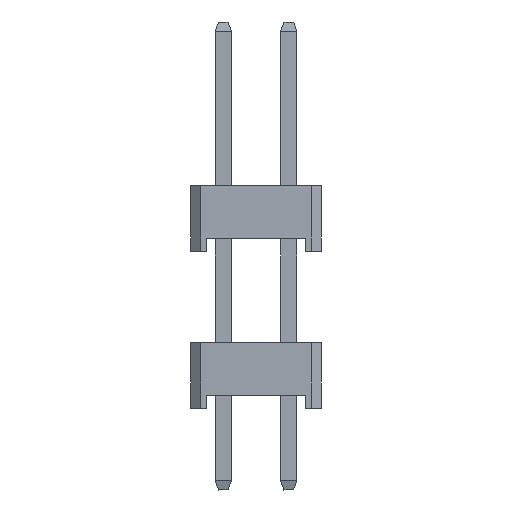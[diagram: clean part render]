
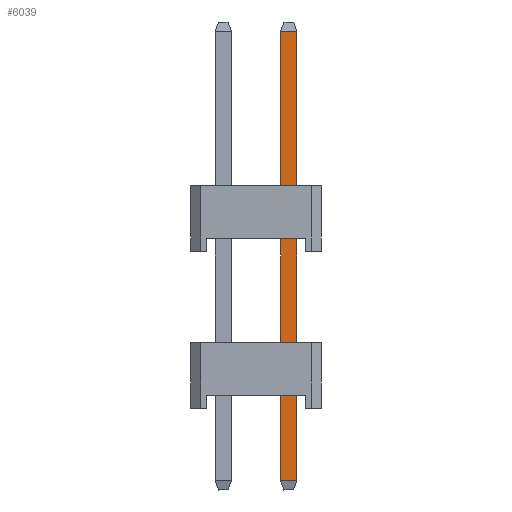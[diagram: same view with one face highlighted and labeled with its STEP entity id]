
A CAD part, left-side view. The second image highlights one B-rep face of the part: STEP entity #6039.
In plain terms, the highlighted planar face has unit normal (-1, 0, 0).
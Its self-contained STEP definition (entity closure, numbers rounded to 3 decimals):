
#1239 = CARTESIAN_POINT ( 'NONE',  ( -11.696, 1.914, 0.5 ) ) ;
#1490 = LINE ( 'NONE', #1507, #15862 ) ;
#1503 = LINE ( 'NONE', #1505, #15863 ) ;
#1505 = CARTESIAN_POINT ( 'NONE',  ( -11.696, 1.914, 0. ) ) ;
#1506 = DIRECTION ( 'NONE',  ( 0., 0., -1. ) ) ;
#1507 = CARTESIAN_POINT ( 'NONE',  ( -11.696, 15.614, 0. ) ) ;
#1509 = DIRECTION ( 'NONE',  ( 0., 0., 1. ) ) ;
#1530 = LINE ( 'NONE', #1531, #15872 ) ;
#1531 = CARTESIAN_POINT ( 'NONE',  ( -11.696, -2.886, 0.5 ) ) ;
#1532 = DIRECTION ( 'NONE',  ( 0., -1., 0. ) ) ;
#1536 = LINE ( 'NONE', #1538, #15874 ) ;
#1538 = CARTESIAN_POINT ( 'NONE',  ( -11.696, -2.886, 0. ) ) ;
#1539 = DIRECTION ( 'NONE',  ( 0., 1., 0. ) ) ;
#1973 = ORIENTED_EDGE ( 'NONE', *, *, #16543, .F. ) ;
#2029 = ORIENTED_EDGE ( 'NONE', *, *, #16545, .F. ) ;
#2047 = ORIENTED_EDGE ( 'NONE', *, *, #16560, .F. ) ;
#2059 = ORIENTED_EDGE ( 'NONE', *, *, #16562, .F. ) ;
#2361 = EDGE_LOOP ( 'NONE', ( #1973, #2047, #2029, #2059 ) ) ;
#4445 = VERTEX_POINT ( 'NONE', #13316 ) ;
#4467 = VERTEX_POINT ( 'NONE', #13337 ) ;
#5007 = VERTEX_POINT ( 'NONE', #13877 ) ;
#6039 = ADVANCED_FACE ( 'NONE', ( #16292 ), #16286, .F. ) ;
#10689 = VERTEX_POINT ( 'NONE', #1239 ) ;
#13316 = CARTESIAN_POINT ( 'NONE',  ( -11.696, 15.614, 0.5 ) ) ;
#13337 = CARTESIAN_POINT ( 'NONE',  ( -11.696, 1.914, 0. ) ) ;
#13877 = CARTESIAN_POINT ( 'NONE',  ( -11.696, 15.614, 0. ) ) ;
#15398 = AXIS2_PLACEMENT_3D ( 'NONE', #16288, #16294, #16295 ) ;
#15862 = VECTOR ( 'NONE', #1509, 1000. ) ;
#15863 = VECTOR ( 'NONE', #1506, 1000. ) ;
#15872 = VECTOR ( 'NONE', #1532, 1000. ) ;
#15874 = VECTOR ( 'NONE', #1539, 1000. ) ;
#16286 = PLANE ( 'NONE',  #15398 ) ;
#16288 = CARTESIAN_POINT ( 'NONE',  ( -11.696, -2.886, 0. ) ) ;
#16292 = FACE_OUTER_BOUND ( 'NONE', #2361, .T. ) ;
#16294 = DIRECTION ( 'NONE',  ( 1., 0., 0. ) ) ;
#16295 = DIRECTION ( 'NONE',  ( 0., 0., -1. ) ) ;
#16543 = EDGE_CURVE ( 'NONE', #10689, #4467, #1503, .T. ) ;
#16545 = EDGE_CURVE ( 'NONE', #5007, #4445, #1490, .T. ) ;
#16560 = EDGE_CURVE ( 'NONE', #4445, #10689, #1530, .T. ) ;
#16562 = EDGE_CURVE ( 'NONE', #4467, #5007, #1536, .T. ) ;
